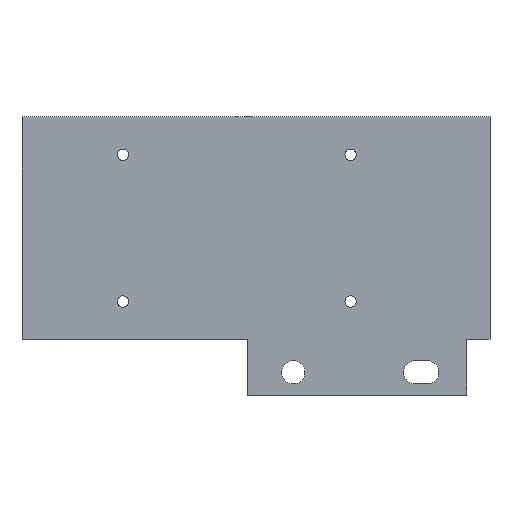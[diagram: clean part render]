
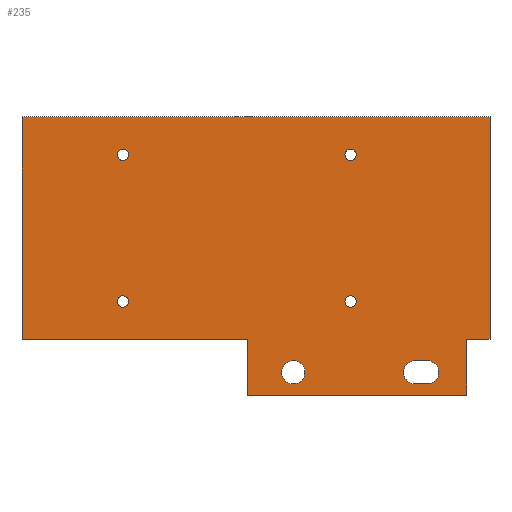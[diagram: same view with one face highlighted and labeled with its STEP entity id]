
A CAD part, top view. The second image highlights one B-rep face of the part: STEP entity #235.
In plain terms, the highlighted planar face has unit normal (0, 0, 1).
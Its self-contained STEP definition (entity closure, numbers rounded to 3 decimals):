
#32 = VERTEX_POINT('',#33);
#33 = CARTESIAN_POINT('',(0.,110.,3.));
#39 = EDGE_CURVE('',#32,#40,#42,.T.);
#40 = VERTEX_POINT('',#41);
#41 = CARTESIAN_POINT('',(0.,22.,3.));
#42 = LINE('',#43,#44);
#43 = CARTESIAN_POINT('',(0.,110.,3.));
#44 = VECTOR('',#45,1.);
#45 = DIRECTION('',(0.,-1.,0.));
#215 = EDGE_CURVE('',#40,#216,#218,.T.);
#216 = VERTEX_POINT('',#217);
#217 = CARTESIAN_POINT('',(89.15,22.,3.));
#218 = LINE('',#219,#220);
#219 = CARTESIAN_POINT('',(0.,22.,3.));
#220 = VECTOR('',#221,1.);
#221 = DIRECTION('',(1.,0.,0.));
#235 = ADVANCED_FACE('',(#236,#286,#297,#308,#319,#330,#341),#377,.T.);
#236 = FACE_BOUND('',#237,.T.);
#237 = EDGE_LOOP('',(#238,#248,#254,#255,#256,#264,#272,#280));
#238 = ORIENTED_EDGE('',*,*,#239,.F.);
#239 = EDGE_CURVE('',#240,#242,#244,.T.);
#240 = VERTEX_POINT('',#241);
#241 = CARTESIAN_POINT('',(185.,110.,3.));
#242 = VERTEX_POINT('',#243);
#243 = CARTESIAN_POINT('',(185.,22.,3.));
#244 = LINE('',#245,#246);
#245 = CARTESIAN_POINT('',(185.,110.,3.));
#246 = VECTOR('',#247,1.);
#247 = DIRECTION('',(0.,-1.,0.));
#248 = ORIENTED_EDGE('',*,*,#249,.F.);
#249 = EDGE_CURVE('',#32,#240,#250,.T.);
#250 = LINE('',#251,#252);
#251 = CARTESIAN_POINT('',(0.,110.,3.));
#252 = VECTOR('',#253,1.);
#253 = DIRECTION('',(1.,0.,0.));
#254 = ORIENTED_EDGE('',*,*,#39,.T.);
#255 = ORIENTED_EDGE('',*,*,#215,.T.);
#256 = ORIENTED_EDGE('',*,*,#257,.T.);
#257 = EDGE_CURVE('',#216,#258,#260,.T.);
#258 = VERTEX_POINT('',#259);
#259 = CARTESIAN_POINT('',(89.15,0.,3.));
#260 = LINE('',#261,#262);
#261 = CARTESIAN_POINT('',(89.15,27.,3.));
#262 = VECTOR('',#263,1.);
#263 = DIRECTION('',(0.,-1.,0.));
#264 = ORIENTED_EDGE('',*,*,#265,.T.);
#265 = EDGE_CURVE('',#258,#266,#268,.T.);
#266 = VERTEX_POINT('',#267);
#267 = CARTESIAN_POINT('',(175.85,0.,3.));
#268 = LINE('',#269,#270);
#269 = CARTESIAN_POINT('',(89.15,0.,3.));
#270 = VECTOR('',#271,1.);
#271 = DIRECTION('',(1.,0.,0.));
#272 = ORIENTED_EDGE('',*,*,#273,.F.);
#273 = EDGE_CURVE('',#274,#266,#276,.T.);
#274 = VERTEX_POINT('',#275);
#275 = CARTESIAN_POINT('',(175.85,22.,3.));
#276 = LINE('',#277,#278);
#277 = CARTESIAN_POINT('',(175.85,27.,3.));
#278 = VECTOR('',#279,1.);
#279 = DIRECTION('',(0.,-1.,0.));
#280 = ORIENTED_EDGE('',*,*,#281,.T.);
#281 = EDGE_CURVE('',#274,#242,#282,.T.);
#282 = LINE('',#283,#284);
#283 = CARTESIAN_POINT('',(0.,22.,3.));
#284 = VECTOR('',#285,1.);
#285 = DIRECTION('',(1.,0.,0.));
#286 = FACE_BOUND('',#287,.T.);
#287 = EDGE_LOOP('',(#288));
#288 = ORIENTED_EDGE('',*,*,#289,.F.);
#289 = EDGE_CURVE('',#290,#290,#292,.T.);
#290 = VERTEX_POINT('',#291);
#291 = CARTESIAN_POINT('',(39.9,92.75,3.));
#292 = CIRCLE('',#293,2.25);
#293 = AXIS2_PLACEMENT_3D('',#294,#295,#296);
#294 = CARTESIAN_POINT('',(39.9,95.,3.));
#295 = DIRECTION('',(0.,0.,1.));
#296 = DIRECTION('',(0.,-1.,0.));
#297 = FACE_BOUND('',#298,.T.);
#298 = EDGE_LOOP('',(#299));
#299 = ORIENTED_EDGE('',*,*,#300,.F.);
#300 = EDGE_CURVE('',#301,#301,#303,.T.);
#301 = VERTEX_POINT('',#302);
#302 = CARTESIAN_POINT('',(39.9,34.75,3.));
#303 = CIRCLE('',#304,2.25);
#304 = AXIS2_PLACEMENT_3D('',#305,#306,#307);
#305 = CARTESIAN_POINT('',(39.9,37.,3.));
#306 = DIRECTION('',(0.,0.,1.));
#307 = DIRECTION('',(0.,-1.,0.));
#308 = FACE_BOUND('',#309,.T.);
#309 = EDGE_LOOP('',(#310));
#310 = ORIENTED_EDGE('',*,*,#311,.F.);
#311 = EDGE_CURVE('',#312,#312,#314,.T.);
#312 = VERTEX_POINT('',#313);
#313 = CARTESIAN_POINT('',(129.9,92.75,3.));
#314 = CIRCLE('',#315,2.25);
#315 = AXIS2_PLACEMENT_3D('',#316,#317,#318);
#316 = CARTESIAN_POINT('',(129.9,95.,3.));
#317 = DIRECTION('',(0.,0.,1.));
#318 = DIRECTION('',(0.,-1.,0.));
#319 = FACE_BOUND('',#320,.T.);
#320 = EDGE_LOOP('',(#321));
#321 = ORIENTED_EDGE('',*,*,#322,.F.);
#322 = EDGE_CURVE('',#323,#323,#325,.T.);
#323 = VERTEX_POINT('',#324);
#324 = CARTESIAN_POINT('',(129.9,34.75,3.));
#325 = CIRCLE('',#326,2.25);
#326 = AXIS2_PLACEMENT_3D('',#327,#328,#329);
#327 = CARTESIAN_POINT('',(129.9,37.,3.));
#328 = DIRECTION('',(0.,0.,1.));
#329 = DIRECTION('',(0.,-1.,0.));
#330 = FACE_BOUND('',#331,.T.);
#331 = EDGE_LOOP('',(#332));
#332 = ORIENTED_EDGE('',*,*,#333,.F.);
#333 = EDGE_CURVE('',#334,#334,#336,.T.);
#334 = VERTEX_POINT('',#335);
#335 = CARTESIAN_POINT('',(107.235,4.4,3.));
#336 = CIRCLE('',#337,4.6);
#337 = AXIS2_PLACEMENT_3D('',#338,#339,#340);
#338 = CARTESIAN_POINT('',(107.235,9.,3.));
#339 = DIRECTION('',(0.,0.,1.));
#340 = DIRECTION('',(0.,-1.,0.));
#341 = FACE_BOUND('',#342,.T.);
#342 = EDGE_LOOP('',(#343,#354,#362,#371));
#343 = ORIENTED_EDGE('',*,*,#344,.F.);
#344 = EDGE_CURVE('',#345,#347,#349,.T.);
#345 = VERTEX_POINT('',#346);
#346 = CARTESIAN_POINT('',(155.365,13.6,3.));
#347 = VERTEX_POINT('',#348);
#348 = CARTESIAN_POINT('',(155.365,4.4,3.));
#349 = CIRCLE('',#350,4.6);
#350 = AXIS2_PLACEMENT_3D('',#351,#352,#353);
#351 = CARTESIAN_POINT('',(155.365,9.,3.));
#352 = DIRECTION('',(0.,0.,1.));
#353 = DIRECTION('',(0.,-1.,0.));
#354 = ORIENTED_EDGE('',*,*,#355,.T.);
#355 = EDGE_CURVE('',#345,#356,#358,.T.);
#356 = VERTEX_POINT('',#357);
#357 = CARTESIAN_POINT('',(160.165,13.6,3.));
#358 = LINE('',#359,#360);
#359 = CARTESIAN_POINT('',(125.424,13.6,3.));
#360 = VECTOR('',#361,1.);
#361 = DIRECTION('',(1.,0.,0.));
#362 = ORIENTED_EDGE('',*,*,#363,.F.);
#363 = EDGE_CURVE('',#364,#356,#366,.T.);
#364 = VERTEX_POINT('',#365);
#365 = CARTESIAN_POINT('',(160.165,4.4,3.));
#366 = CIRCLE('',#367,4.6);
#367 = AXIS2_PLACEMENT_3D('',#368,#369,#370);
#368 = CARTESIAN_POINT('',(160.165,9.,3.));
#369 = DIRECTION('',(0.,0.,1.));
#370 = DIRECTION('',(0.,-1.,0.));
#371 = ORIENTED_EDGE('',*,*,#372,.F.);
#372 = EDGE_CURVE('',#347,#364,#373,.T.);
#373 = LINE('',#374,#375);
#374 = CARTESIAN_POINT('',(125.424,4.4,3.));
#375 = VECTOR('',#376,1.);
#376 = DIRECTION('',(1.,0.,0.));
#377 = PLANE('',#378);
#378 = AXIS2_PLACEMENT_3D('',#379,#380,#381);
#379 = CARTESIAN_POINT('',(95.483,58.665,3.));
#380 = DIRECTION('',(0.,0.,1.));
#381 = DIRECTION('',(0.,-1.,0.));
